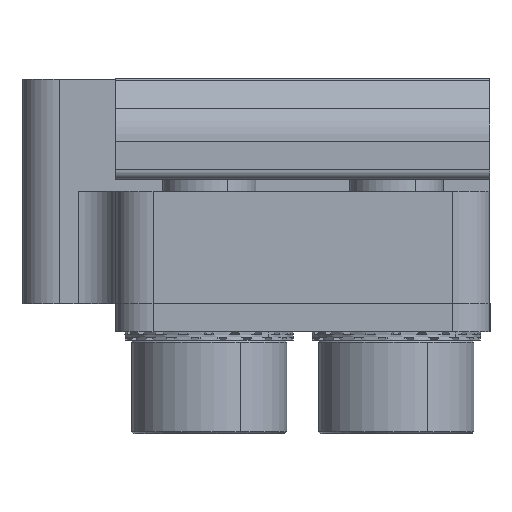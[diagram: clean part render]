
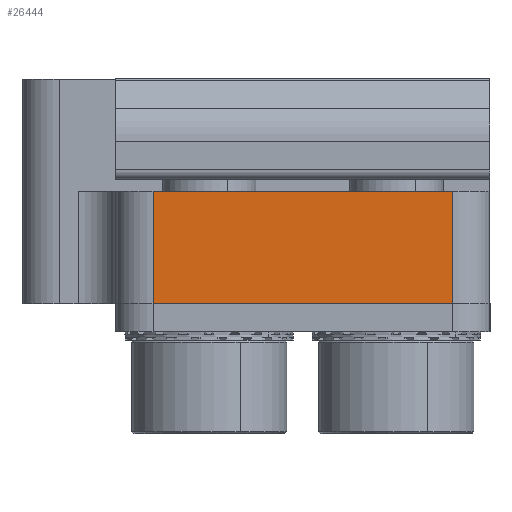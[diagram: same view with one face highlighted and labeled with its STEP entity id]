
A CAD part, front view. The second image highlights one B-rep face of the part: STEP entity #26444.
In plain terms, the highlighted planar face has unit normal (0, -1, 0).
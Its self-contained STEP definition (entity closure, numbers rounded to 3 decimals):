
#292 = FACE_OUTER_BOUND ( 'NONE', #28730, .T. ) ;
#540 = DIRECTION ( 'NONE',  ( 0., 1., 0. ) ) ;
#3499 = ORIENTED_EDGE ( 'NONE', *, *, #10754, .T. ) ;
#4032 = DIRECTION ( 'NONE',  ( 0., 0., -1. ) ) ;
#4292 = ORIENTED_EDGE ( 'NONE', *, *, #25691, .T. ) ;
#5594 = EDGE_CURVE ( 'NONE', #10523, #25890, #25770, .T. ) ;
#6995 = CARTESIAN_POINT ( 'NONE',  ( 8., -75., 6. ) ) ;
#7949 = LINE ( 'NONE', #18563, #20511 ) ;
#8643 = CARTESIAN_POINT ( 'NONE',  ( -8., -75., 6. ) ) ;
#10261 = CARTESIAN_POINT ( 'NONE',  ( 0., -75., 0. ) ) ;
#10523 = VERTEX_POINT ( 'NONE', #21629 ) ;
#10591 = CARTESIAN_POINT ( 'NONE',  ( -10., -75., 6. ) ) ;
#10754 = EDGE_CURVE ( 'NONE', #28762, #28133, #22140, .T. ) ;
#13515 = LINE ( 'NONE', #19225, #15795 ) ;
#15237 = DIRECTION ( 'NONE',  ( 0., 0., 1. ) ) ;
#15253 = DIRECTION ( 'NONE',  ( -1., 0., 0. ) ) ;
#15795 = VECTOR ( 'NONE', #22365, 1000. ) ;
#16193 = CARTESIAN_POINT ( 'NONE',  ( 10., -75., 0. ) ) ;
#17027 = EDGE_CURVE ( 'NONE', #25890, #28762, #13515, .T. ) ;
#18559 = VECTOR ( 'NONE', #30656, 1000. ) ;
#18563 = CARTESIAN_POINT ( 'NONE',  ( -8., -75., 0. ) ) ;
#19180 = ORIENTED_EDGE ( 'NONE', *, *, #5594, .T. ) ;
#19225 = CARTESIAN_POINT ( 'NONE',  ( 8., -75., 6. ) ) ;
#20511 = VECTOR ( 'NONE', #4032, 1000. ) ;
#20639 = VECTOR ( 'NONE', #15253, 1000. ) ;
#21629 = CARTESIAN_POINT ( 'NONE',  ( -8., -75., 0. ) ) ;
#22140 = LINE ( 'NONE', #10591, #20639 ) ;
#22365 = DIRECTION ( 'NONE',  ( 0., 0., 1. ) ) ;
#23392 = AXIS2_PLACEMENT_3D ( 'NONE', #10261, #540, #15237 ) ;
#24285 = CARTESIAN_POINT ( 'NONE',  ( 8., -75., 0. ) ) ;
#24467 = PLANE ( 'NONE',  #23392 ) ;
#25691 = EDGE_CURVE ( 'NONE', #28133, #10523, #7949, .T. ) ;
#25704 = ORIENTED_EDGE ( 'NONE', *, *, #17027, .T. ) ;
#25770 = LINE ( 'NONE', #16193, #18559 ) ;
#25890 = VERTEX_POINT ( 'NONE', #24285 ) ;
#26444 = ADVANCED_FACE ( 'NONE', ( #292 ), #24467, .F. ) ;
#28133 = VERTEX_POINT ( 'NONE', #8643 ) ;
#28730 = EDGE_LOOP ( 'NONE', ( #19180, #25704, #3499, #4292 ) ) ;
#28762 = VERTEX_POINT ( 'NONE', #6995 ) ;
#30656 = DIRECTION ( 'NONE',  ( 1., 0., 0. ) ) ;
